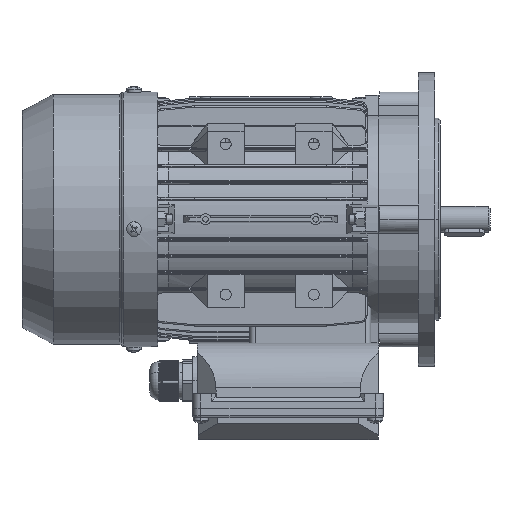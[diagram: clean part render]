
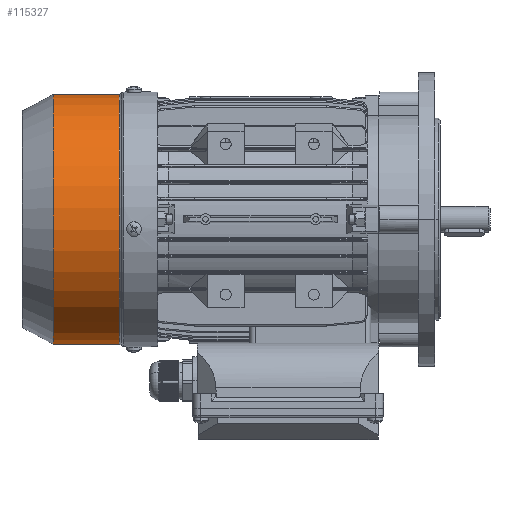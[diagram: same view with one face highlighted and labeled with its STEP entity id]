
A CAD part, left-side view. The second image highlights one B-rep face of the part: STEP entity #115327.
In plain terms, the highlighted cylindrical face has radius 68.3 mm (diameter 136.6 mm), a partial arc.
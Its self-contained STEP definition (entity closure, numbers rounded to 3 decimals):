
#1789 = CYLINDRICAL_SURFACE ( 'NONE', #93212, 68.3 ) ;
#7071 = VERTEX_POINT ( 'NONE', #14199 ) ;
#9129 = ORIENTED_EDGE ( 'NONE', *, *, #58410, .F. ) ;
#14071 = AXIS2_PLACEMENT_3D ( 'NONE', #27585, #26425, #100364 ) ;
#14199 = CARTESIAN_POINT ( 'NONE',  ( 6.091, 70.035, 68.072 ) ) ;
#14791 = AXIS2_PLACEMENT_3D ( 'NONE', #48304, #101568, #40007 ) ;
#15678 = EDGE_CURVE ( 'NONE', #54501, #65978, #31338, .T. ) ;
#18586 = VERTEX_POINT ( 'NONE', #27704 ) ;
#19008 = DIRECTION ( 'NONE',  ( -0.082, 0., 0.997 ) ) ;
#23573 = VECTOR ( 'NONE', #49104, 1000. ) ;
#26425 = DIRECTION ( 'NONE',  ( 0., -1., 0. ) ) ;
#27585 = CARTESIAN_POINT ( 'NONE',  ( 11.669, 70.035, 0. ) ) ;
#27704 = CARTESIAN_POINT ( 'NONE',  ( 6.091, 106.044, 68.072 ) ) ;
#31338 = LINE ( 'NONE', #94103, #23573 ) ;
#32852 = CARTESIAN_POINT ( 'NONE',  ( 6.091, 49.044, 68.072 ) ) ;
#36879 = ORIENTED_EDGE ( 'NONE', *, *, #15678, .T. ) ;
#40007 = DIRECTION ( 'NONE',  ( -0.082, 0., 0.997 ) ) ;
#48304 = CARTESIAN_POINT ( 'NONE',  ( 11.669, 106.044, 0. ) ) ;
#49104 = DIRECTION ( 'NONE',  ( 0., -1., 0. ) ) ;
#54501 = VERTEX_POINT ( 'NONE', #108417 ) ;
#57475 = DIRECTION ( 'NONE',  ( 0., -1., 0. ) ) ;
#57706 = ORIENTED_EDGE ( 'NONE', *, *, #104803, .T. ) ;
#58410 = EDGE_CURVE ( 'NONE', #7071, #65978, #87865, .T. ) ;
#59480 = ORIENTED_EDGE ( 'NONE', *, *, #103663, .F. ) ;
#65978 = VERTEX_POINT ( 'NONE', #81292 ) ;
#76714 = LINE ( 'NONE', #32852, #95856 ) ;
#79221 = EDGE_LOOP ( 'NONE', ( #57706, #36879, #9129, #59480 ) ) ;
#81292 = CARTESIAN_POINT ( 'NONE',  ( 17.247, 70.035, -68.072 ) ) ;
#82918 = FACE_OUTER_BOUND ( 'NONE', #79221, .T. ) ;
#87865 = CIRCLE ( 'NONE', #14071, 68.3 ) ;
#88504 = CIRCLE ( 'NONE', #14791, 68.3 ) ;
#91817 = CARTESIAN_POINT ( 'NONE',  ( 11.669, 49.044, 0. ) ) ;
#93212 = AXIS2_PLACEMENT_3D ( 'NONE', #91817, #57475, #19008 ) ;
#94103 = CARTESIAN_POINT ( 'NONE',  ( 17.247, 49.044, -68.072 ) ) ;
#95856 = VECTOR ( 'NONE', #113344, 1000. ) ;
#100364 = DIRECTION ( 'NONE',  ( -0.082, 0., 0.997 ) ) ;
#101568 = DIRECTION ( 'NONE',  ( 0., -1., 0. ) ) ;
#103663 = EDGE_CURVE ( 'NONE', #18586, #7071, #76714, .T. ) ;
#104803 = EDGE_CURVE ( 'NONE', #18586, #54501, #88504, .T. ) ;
#108417 = CARTESIAN_POINT ( 'NONE',  ( 17.247, 106.044, -68.072 ) ) ;
#113344 = DIRECTION ( 'NONE',  ( 0., -1., 0. ) ) ;
#115327 = ADVANCED_FACE ( 'NONE', ( #82918 ), #1789, .T. ) ;
